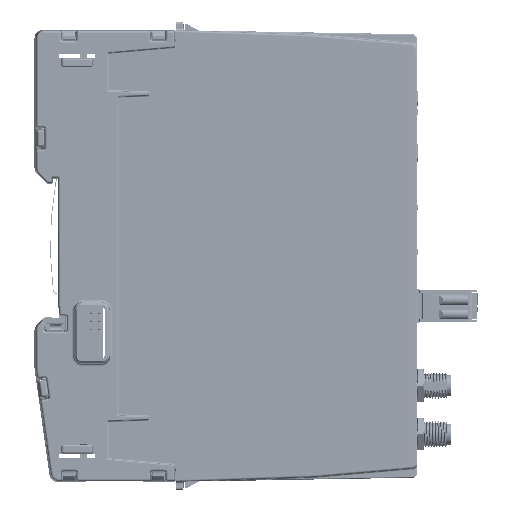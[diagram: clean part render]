
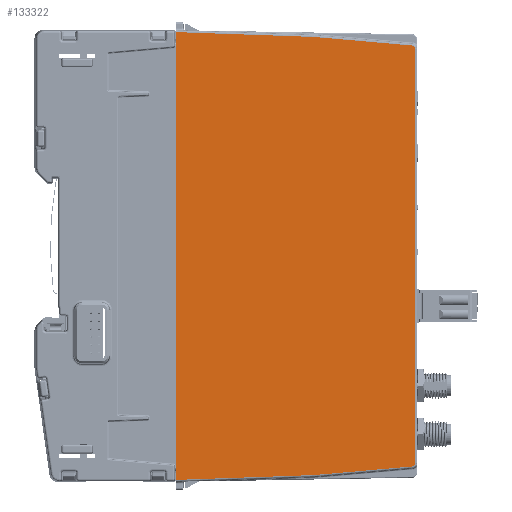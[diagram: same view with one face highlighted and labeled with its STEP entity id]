
A CAD part, left-side view. The second image highlights one B-rep face of the part: STEP entity #133322.
In plain terms, the highlighted planar face has unit normal (-1, -0.018, 0).
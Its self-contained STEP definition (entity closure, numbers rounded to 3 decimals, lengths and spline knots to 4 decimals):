
#2951=ELLIPSE('',#142451,0.0315,0.0315);
#2952=ELLIPSE('',#142452,0.0315,0.0315);
#5389=PLANE('',#142450);
#13267=FACE_OUTER_BOUND('',#20605,.T.);
#20605=EDGE_LOOP('',(#106534,#106535,#106536,#106537,#106538,#106539,#106540,
#106541,#106542,#106543));
#35414=LINE('',#252394,#48241);
#35730=LINE('',#253655,#48557);
#35731=LINE('',#253657,#48558);
#35732=LINE('',#253659,#48559);
#35733=LINE('',#253661,#48560);
#35734=LINE('',#253663,#48561);
#35735=LINE('',#253667,#48562);
#35736=LINE('',#253670,#48563);
#48241=VECTOR('',#166031,39.3701);
#48557=VECTOR('',#166719,39.3701);
#48558=VECTOR('',#166720,39.3701);
#48559=VECTOR('',#166721,39.3701);
#48560=VECTOR('',#166722,39.3701);
#48561=VECTOR('',#166723,39.3701);
#48562=VECTOR('',#166726,39.3701);
#48563=VECTOR('',#166729,39.3701);
#61114=VERTEX_POINT('',#252391);
#61115=VERTEX_POINT('',#252393);
#61395=VERTEX_POINT('',#253654);
#61396=VERTEX_POINT('',#253656);
#61397=VERTEX_POINT('',#253658);
#61398=VERTEX_POINT('',#253660);
#61399=VERTEX_POINT('',#253662);
#61400=VERTEX_POINT('',#253664);
#61401=VERTEX_POINT('',#253666);
#61402=VERTEX_POINT('',#253668);
#76838=EDGE_CURVE('',#61115,#61114,#35414,.T.);
#77259=EDGE_CURVE('',#61114,#61395,#35730,.T.);
#77260=EDGE_CURVE('',#61396,#61395,#35731,.T.);
#77261=EDGE_CURVE('',#61396,#61397,#35732,.T.);
#77262=EDGE_CURVE('',#61397,#61398,#35733,.T.);
#77263=EDGE_CURVE('',#61398,#61399,#35734,.T.);
#77264=EDGE_CURVE('',#61399,#61400,#2951,.T.);
#77265=EDGE_CURVE('',#61400,#61401,#35735,.T.);
#77266=EDGE_CURVE('',#61401,#61402,#2952,.T.);
#77267=EDGE_CURVE('',#61402,#61115,#35736,.T.);
#106534=ORIENTED_EDGE('',*,*,#76838,.T.);
#106535=ORIENTED_EDGE('',*,*,#77259,.T.);
#106536=ORIENTED_EDGE('',*,*,#77260,.F.);
#106537=ORIENTED_EDGE('',*,*,#77261,.T.);
#106538=ORIENTED_EDGE('',*,*,#77262,.T.);
#106539=ORIENTED_EDGE('',*,*,#77263,.T.);
#106540=ORIENTED_EDGE('',*,*,#77264,.T.);
#106541=ORIENTED_EDGE('',*,*,#77265,.T.);
#106542=ORIENTED_EDGE('',*,*,#77266,.T.);
#106543=ORIENTED_EDGE('',*,*,#77267,.T.);
#133322=ADVANCED_FACE('',(#13267),#5389,.T.);
#142450=AXIS2_PLACEMENT_3D('',#253653,#166717,#166718);
#142451=AXIS2_PLACEMENT_3D('',#253665,#166724,#166725);
#142452=AXIS2_PLACEMENT_3D('',#253669,#166727,#166728);
#166031=DIRECTION('',(-0.017,0.999,0.035));
#166717=DIRECTION('center_axis',(-1.,-0.017,
0.));
#166718=DIRECTION('ref_axis',(-0.017,1.,0.));
#166719=DIRECTION('',(0.,0.,-1.));
#166720=DIRECTION('',(0.,0.,1.));
#166721=DIRECTION('',(0.,0.,-1.));
#166722=DIRECTION('',(0.017,-0.999,0.035));
#166723=DIRECTION('',(0.017,-0.996,0.087));
#166724=DIRECTION('center_axis',(-1.,-0.017,
0.));
#166725=DIRECTION('ref_axis',(0.017,-1.,0.));
#166726=DIRECTION('',(0.,0.,1.));
#166727=DIRECTION('center_axis',(-1.,-0.017,
0.));
#166728=DIRECTION('ref_axis',(0.017,-1.,0.));
#166729=DIRECTION('',(-0.017,0.996,0.087));
#252391=CARTESIAN_POINT('',(-0.0227,-0.8686,0.1083));
#252393=CARTESIAN_POINT('',(0.0007,-2.2063,0.0616));
#252394=CARTESIAN_POINT('',(-0.0282,-0.5512,0.1194));
#253653=CARTESIAN_POINT('Origin',(-0.0295,-0.4749,
-2.0669));
#253654=CARTESIAN_POINT('',(-0.0227,-0.8686,-0.0312));
#253655=CARTESIAN_POINT('',(-0.0227,-0.8686,0.128));
#253656=CARTESIAN_POINT('',(-0.0227,-0.8686,-4.1027));
#253657=CARTESIAN_POINT('',(-0.0227,-0.8686,-7.5932));
#253658=CARTESIAN_POINT('',(-0.0227,-0.8686,-4.2421));
#253659=CARTESIAN_POINT('',(-0.0227,-0.8686,0.128));
#253660=CARTESIAN_POINT('',(0.0007,-2.2063,-4.1954));
#253661=CARTESIAN_POINT('',(-0.0282,-0.5512,-4.2532));
#253662=CARTESIAN_POINT('',(0.0174,-3.163,-4.1117));
#253663=CARTESIAN_POINT('',(-0.0261,-0.6728,-4.3296));
#253664=CARTESIAN_POINT('',(0.0179,-3.1918,-4.0803));
#253665=CARTESIAN_POINT('Origin',(0.0173,-3.1603,-4.0803));
#253666=CARTESIAN_POINT('',(0.0179,-3.1918,-0.0535));
#253667=CARTESIAN_POINT('',(0.0179,-3.1918,-0.0535));
#253668=CARTESIAN_POINT('',(0.0174,-3.163,-0.0221));
#253669=CARTESIAN_POINT('Origin',(0.0173,-3.1603,
-0.0535));
#253670=CARTESIAN_POINT('',(-0.0261,-0.6728,0.1957));
